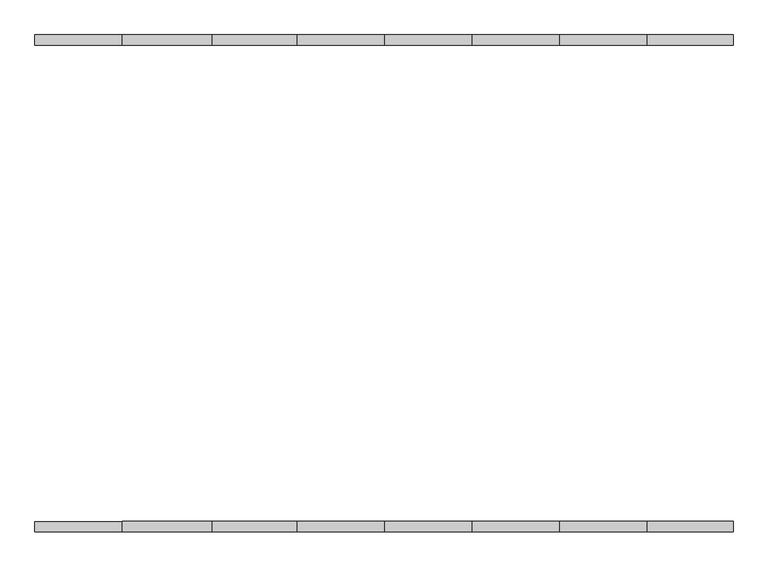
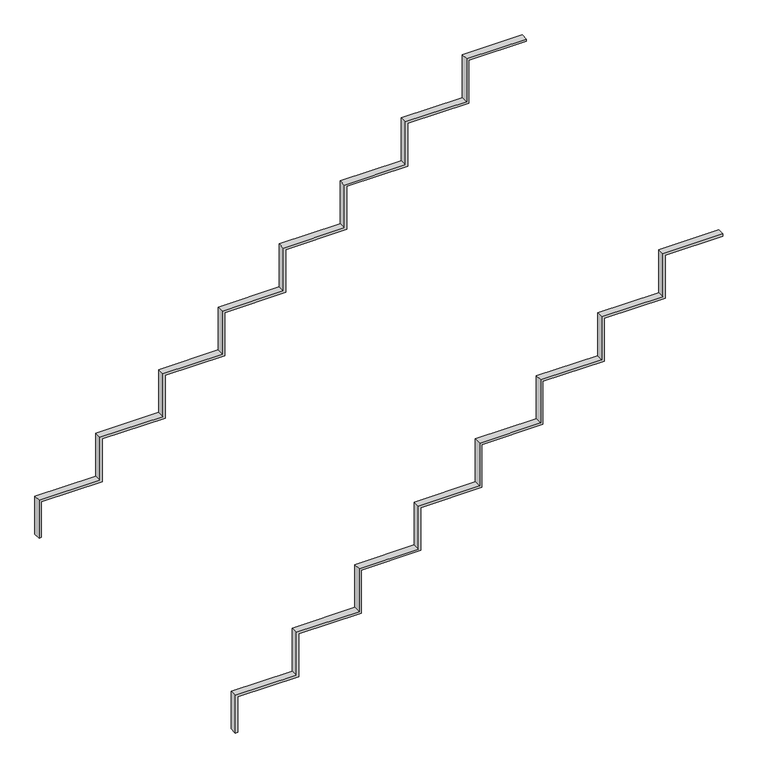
"""IFC4 building model written with IfcOpenShell, lengths in millimetres: beam geometry, Armazón estructural 8 : Armazón estructural 7."""

from ifc_helpers import new_model, si_unit, frame, origin, place, context, project, spatial, polyline, outline, extrude, source, transform, mapped, element, save


def beam_4ebdabfa(model_context):
    return source(origin(), model_context, "Body", "SweptSolid", [
        extrude(outline(polyline([(9450.0, 9361.8150447), (9260.0, 9361.8150447), (9260.0, 9105.6696365), (9070.0, 9105.6696365), (9070.0, 8849.5242284), (8880.0, 8849.5242284), (8880.0, 8593.3788203), (8690.0, 8593.3788203), (8690.0, 8337.2334121), (8500.0, 8337.2334121), (8500.0, 8088.3712102), (8310.0, 8088.3712102), (8310.0, 7824.9425959), (8120.0, 7824.9425959), (8120.0, 7569.3489495), (7952.875, 7569.3489495), (7952.875, 7579.3489495), (8110.0, 7579.3489495), (8110.0, 7834.9425959), (8300.0, 7834.9425959), (8300.0, 8098.3712102), (8490.0, 8098.3712102), (8490.0, 8347.2334121), (8680.0, 8347.2334121), (8680.0, 8603.3788203), (8870.0, 8603.3788203), (8870.0, 8859.5242284), (9060.0, 8859.5242284), (9060.0, 9115.6696365), (9250.0, 9115.6696365), (9250.0, 9371.8150447), (9440.0, 9371.8150447), (9440.0, 9612.8150447), (9450.0, 9612.8150447), (9450.0, 9361.8150447)])), frame((0.0, 1496.342606, 0.0), z_axis=(0.0, 1.0, 0.0), x_axis=(0.0, 0.0, 1.0)), (0.0, 0.0, 1.0), 30.0),
        extrude(outline(polyline([(9450.0, 9361.8150447), (9260.0, 9361.8150447), (9260.0, 9105.6696365), (9070.0, 9105.6696365), (9070.0, 8849.5242284), (8880.0, 8849.5242284), (8880.0, 8593.3788203), (8690.0, 8593.3788203), (8690.0, 8337.2334121), (8500.0, 8337.2334121), (8500.0, 8088.3712102), (8310.0, 8088.3712102), (8310.0, 7824.9425959), (8120.0, 7824.9425959), (8120.0, 7569.3489495), (7952.875, 7569.3489495), (7952.875, 7579.3489495), (8110.0, 7579.3489495), (8110.0, 7834.9425959), (8300.0, 7834.9425959), (8300.0, 8098.3712102), (8490.0, 8098.3712102), (8490.0, 8347.2334121), (8680.0, 8347.2334121), (8680.0, 8603.3788203), (8870.0, 8603.3788203), (8870.0, 8859.5242284), (9060.0, 8859.5242284), (9060.0, 9115.6696365), (9250.0, 9115.6696365), (9250.0, 9371.8150447), (9440.0, 9371.8150447), (9440.0, 9612.8150447), (9450.0, 9612.8150447), (9450.0, 9361.8150447)])), frame((0.0, 2921.7500845, 0.0), z_axis=(0.0, 1.0, 0.0), x_axis=(0.0, 0.0, 1.0)), (0.0, 0.0, 1.0), 30.0),
    ])


if __name__ == "__main__":
    model = new_model("IFC4")
    model_context = context("Model", 3, world=origin())
    ifc_project = project(units=[si_unit("LENGTHUNIT", "METRE", prefix="MILLI")], contexts=[model_context])
    site = spatial("IfcSite", under=ifc_project)
    building = spatial("IfcBuilding", under=site)
    placement = place(None, origin())
    beam_shape = beam_4ebdabfa(model_context)
    element("IfcBeam", 1, ObjectType="Armazón estructural 8 : Armazón estructural 7", at=placement, inside=building, context=model_context, shape_type="MappedRepresentation", body=[
        mapped(beam_shape, transform((0.0, 0.0, 0.0), x_axis=(1.0, 0.0, 0.0), y_axis=(0.0, 1.0, 0.0), z_axis=(0.0, 0.0, 1.0))),
    ])
    save(model, "model.ifc")
